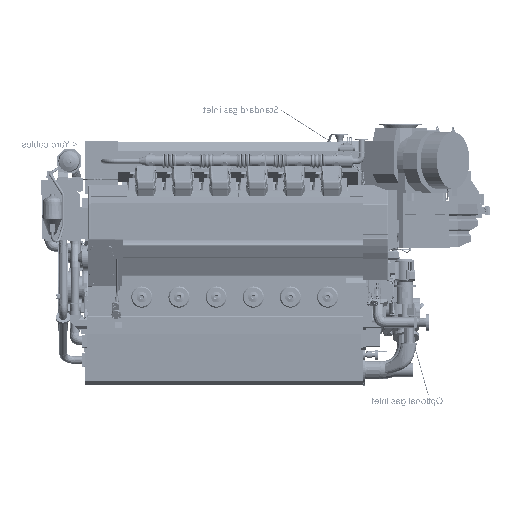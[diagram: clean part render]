
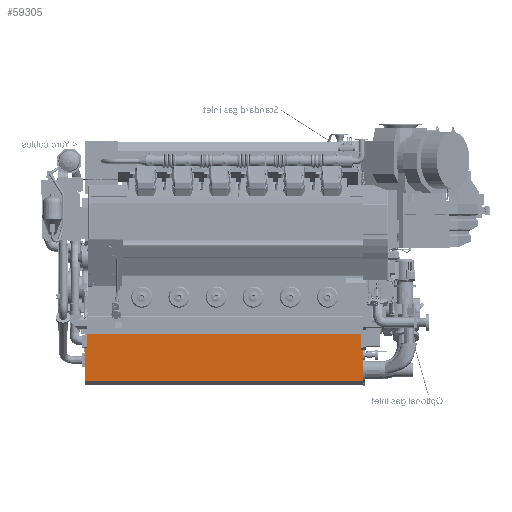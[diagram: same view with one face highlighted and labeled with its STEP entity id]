
A CAD part, front view. The second image highlights one B-rep face of the part: STEP entity #59305.
In plain terms, the highlighted planar face has unit normal (0, -0.999, -0.052).
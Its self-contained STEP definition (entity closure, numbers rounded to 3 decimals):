
#59305=ADVANCED_FACE('',(#82601),#69421,.F.);
#69421=PLANE('',#319444);
#82601=FACE_OUTER_BOUND('',#104762,.T.);
#104762=EDGE_LOOP('',(#179111,#179112,#179113,#179114,#179115,#179116,#179117,
#179118,#179119,#179120));
#179111=ORIENTED_EDGE('',*,*,#246283,.F.);
#179112=ORIENTED_EDGE('',*,*,#246284,.T.);
#179113=ORIENTED_EDGE('',*,*,#246228,.F.);
#179114=ORIENTED_EDGE('',*,*,#246285,.T.);
#179115=ORIENTED_EDGE('',*,*,#246265,.T.);
#179116=ORIENTED_EDGE('',*,*,#246286,.T.);
#179117=ORIENTED_EDGE('',*,*,#246263,.T.);
#179118=ORIENTED_EDGE('',*,*,#246287,.F.);
#179119=ORIENTED_EDGE('',*,*,#246288,.F.);
#179120=ORIENTED_EDGE('',*,*,#246240,.F.);
#208152=VERTEX_POINT('',#618668);
#208153=VERTEX_POINT('',#618670);
#208164=VERTEX_POINT('',#618693);
#208165=VERTEX_POINT('',#618695);
#208186=VERTEX_POINT('',#618739);
#208187=VERTEX_POINT('',#618741);
#208188=VERTEX_POINT('',#618743);
#208189=VERTEX_POINT('',#618745);
#208206=VERTEX_POINT('',#618781);
#208207=VERTEX_POINT('',#618786);
#246228=EDGE_CURVE('',#208152,#208153,#269562,.T.);
#246240=EDGE_CURVE('',#208164,#208165,#269569,.T.);
#246263=EDGE_CURVE('',#208187,#208186,#269588,.T.);
#246265=EDGE_CURVE('',#208189,#208188,#269589,.T.);
#246283=EDGE_CURVE('',#208206,#208164,#269600,.T.);
#246284=EDGE_CURVE('',#208206,#208153,#269601,.T.);
#246285=EDGE_CURVE('',#208152,#208189,#269602,.T.);
#246286=EDGE_CURVE('',#208188,#208187,#269603,.T.);
#246287=EDGE_CURVE('',#208207,#208186,#269604,.T.);
#246288=EDGE_CURVE('',#208165,#208207,#269605,.T.);
#269562=LINE('',#618669,#291634);
#269569=LINE('',#618694,#291641);
#269588=LINE('',#618740,#291660);
#269589=LINE('',#618744,#291661);
#269600=LINE('',#618780,#291672);
#269601=LINE('',#618782,#291673);
#269602=LINE('',#618783,#291674);
#269603=LINE('',#618784,#291675);
#269604=LINE('',#618785,#291676);
#269605=LINE('',#618787,#291677);
#291634=VECTOR('',#394696,1.);
#291641=VECTOR('',#394715,1.);
#291660=VECTOR('',#394744,1.);
#291661=VECTOR('',#394747,1.);
#291672=VECTOR('',#394774,1.);
#291673=VECTOR('',#394775,1.);
#291674=VECTOR('',#394776,1.);
#291675=VECTOR('',#394777,1.);
#291676=VECTOR('',#394778,1.);
#291677=VECTOR('',#394779,1.);
#319444=AXIS2_PLACEMENT_3D('',#618788,#394780,#394781);
#394696=DIRECTION('',(0.,-0.052,0.999));
#394715=DIRECTION('',(1.,0.,0.));
#394744=DIRECTION('',(0.,-0.052,0.999));
#394747=DIRECTION('',(0.,-0.052,0.999));
#394774=DIRECTION('',(0.,-0.052,0.999));
#394775=DIRECTION('',(-1.,0.,0.));
#394776=DIRECTION('',(1.,0.,0.));
#394777=DIRECTION('',(0.,-0.052,0.999));
#394778=DIRECTION('',(1.,0.,0.));
#394779=DIRECTION('',(0.,0.052,-0.999));
#394780=DIRECTION('',(0.,0.999,0.052));
#394781=DIRECTION('',(0.,-0.052,0.999));
#618668=CARTESIAN_POINT('',(-4190.,-519.799,-1402.936));
#618669=CARTESIAN_POINT('',(-4190.,-519.799,-1402.936));
#618670=CARTESIAN_POINT('',(-4190.,-545.633,-909.988));
#618693=CARTESIAN_POINT('',(-4170.,-556.9,-695.));
#618694=CARTESIAN_POINT('',(-4190.,-556.9,-695.));
#618695=CARTESIAN_POINT('',(-30.,-556.9,-695.));
#618739=CARTESIAN_POINT('',(0.,-543.66,-947.642));
#618740=CARTESIAN_POINT('',(0.,-519.799,-1402.936));
#618741=CARTESIAN_POINT('',(0.,-542.122,-976.978));
#618743=CARTESIAN_POINT('',(0.,-537.389,-1067.285));
#618744=CARTESIAN_POINT('',(0.,-519.799,-1402.936));
#618745=CARTESIAN_POINT('',(0.,-519.799,-1402.936));
#618780=CARTESIAN_POINT('',(-4170.,-519.799,-1402.936));
#618781=CARTESIAN_POINT('',(-4170.,-545.633,-909.988));
#618782=CARTESIAN_POINT('',(-4170.,-545.633,-909.988));
#618783=CARTESIAN_POINT('',(-4190.,-519.799,-1402.936));
#618784=CARTESIAN_POINT('',(0.,-519.799,-1402.936));
#618785=CARTESIAN_POINT('',(-30.,-543.66,-947.642));
#618786=CARTESIAN_POINT('',(-30.,-543.66,-947.642));
#618787=CARTESIAN_POINT('',(-30.,-556.9,-695.));
#618788=CARTESIAN_POINT('',(-4190.,-519.799,-1402.936));
